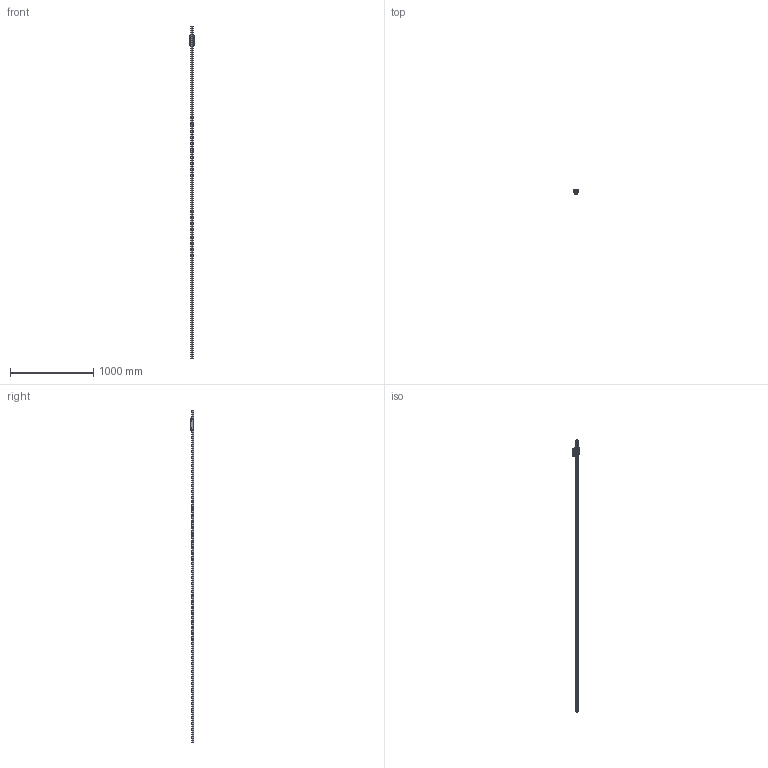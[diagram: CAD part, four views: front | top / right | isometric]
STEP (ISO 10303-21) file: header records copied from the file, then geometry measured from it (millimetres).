
FILE_DESCRIPTION((''),'2;1');
FILE_NAME('BRS35-U0_CUSTOMER_ASM_ASM','2020-11-24T17:00:36',('TWVS2025'),(''),'CREO PARAMETRIC BY PTC INC, 2018420','CREO PARAMETRIC BY PTC INC, 2018420','');
FILE_SCHEMA(('CONFIG_CONTROL_DESIGN'));
Products named in the file (4): BC-BRC35-U0_ASM_1; BRS35-U0_CUSTOMER_ASM_1_ASM; BRR35_CUSTOMER_1; BRS35-U0_CUSTOMER_ASM_ASM
Assembly tree (3 placements, depth 3):
  BRS35-U0_CUSTOMER_ASM_ASM
    BRS35-U0_CUSTOMER_ASM_1_ASM
      BC-BRC35-U0_ASM_1
    BRR35_CUSTOMER_1
Bounding box: 69.95 x 48 x 4000 mm (x, y, z)
Volume: 3389744.8 mm3; surface area: 643225.5 mm2
Topology: 1 solids, 19 shells, 1637 faces, 4762 edges, 3240 vertices
Faces by surface type: plane 741, cylinder 646, bspline 124, cone 62, torus 56, sphere 8
Entity records: 77402 total; most frequent: CARTESIAN_POINT 34540, ORIENTED_EDGE 9434, DIRECTION 8264, EDGE_CURVE 4726, VERTEX_POINT 3240, AXIS2_PLACEMENT_3D 2965, VECTOR 2334, LINE 2334
